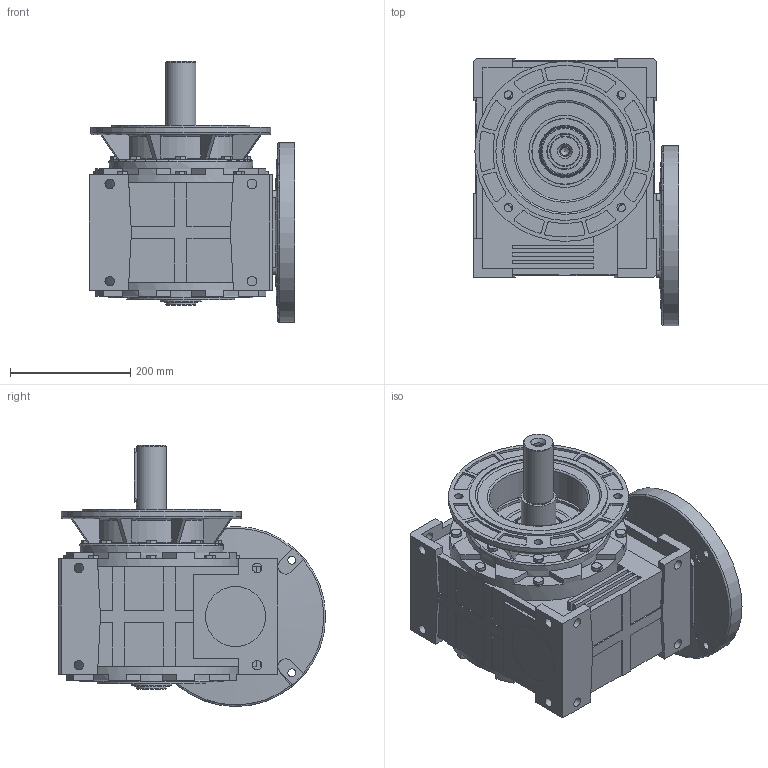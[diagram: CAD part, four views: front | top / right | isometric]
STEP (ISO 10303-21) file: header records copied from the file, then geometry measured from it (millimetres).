
FILE_DESCRIPTION (( 'STEP AP203' ), '1' );
FILE_NAME ('MR-140_132B5_K300_2_WJ_2_3D.STEP', '2018-11-13T12:43:58', ( 'Biuro' ), ( 'Microsoft' ), 'SwSTEP 2.0', 'SolidWorks 2013', '' );
FILE_SCHEMA (( 'CONFIG_CONTROL_DESIGN' ));
Length unit declared in the file: millimetre
Products named in the file (1): MR-140_132B5_K300_2_WJ_2_3D
Bounding box: 342 x 445 x 435 mm (x, y, z)
Volume: 22981405.7 mm3; surface area: 1174253.1 mm2
Topology: 1 solids, 30 shells, 1304 faces, 3224 edges, 2061 vertices
Faces by surface type: plane 779, cylinder 318, cone 140, torus 66, bspline 1
Full cylindrical faces by diameter (mm): 2.5 x2, 10 x24, 10.5 x8, 11 x8, 13 x4, 14 x5, 16 x32, 17 x1, 18 x4, 24 x4, 38 x1, 46 x1, 47 x1, 49.4 x1, 49.5 x1, 49.6 x1, 50 x5, 50.2 x1, 58 x1, 60 x1, 64.95 x1, 65 x2, 68 x1, 70.861 x1, 86 x1, 90 x2, 100 x1, 110 x2, 120 x2, 164 x1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
Entity records: 38600 total; most frequent: CARTESIAN_POINT 8776, DIRECTION 6244, ORIENTED_EDGE 5792, EDGE_CURVE 2896, AXIS2_PLACEMENT_3D 2326, VERTEX_POINT 1954, EDGE_LOOP 1692, VECTOR 1592
